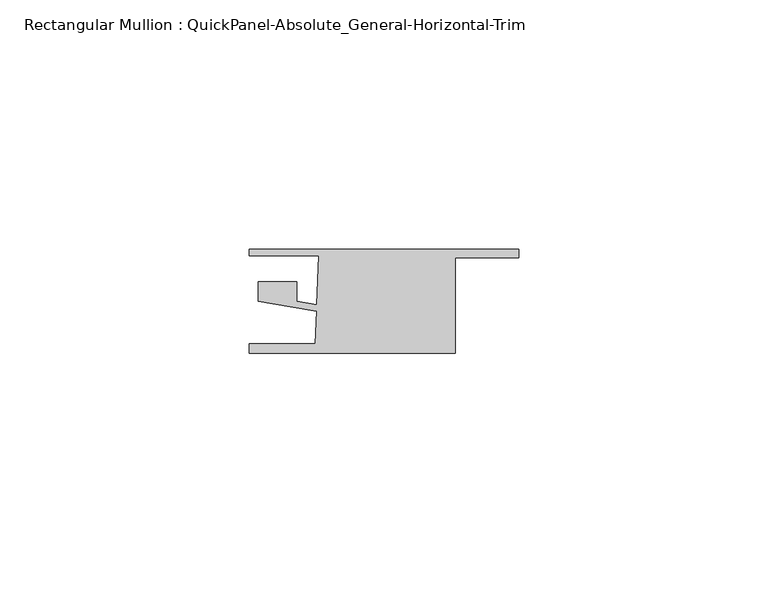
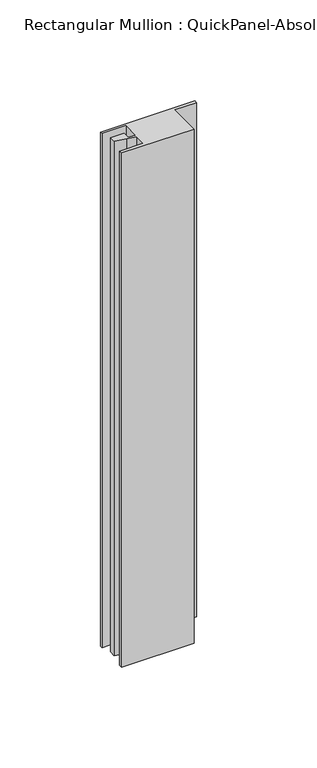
"""IFC4 building model written with IfcOpenShell, lengths in millimetres: member geometry, Rectangular Mullion : QuickPanel-Absolute_General-Horizontal-Trim."""

from ifc_helpers import new_model, si_unit, frame, origin, place, context, project, spatial, polyline, outline, extrude, source, transform, mapped, element, save


def rectangular_mullion_quickpanel_absolute_general_horizontal_21c7a952(model_context):
    return source(origin(), model_context, "Body", "SweptSolid", [
        extrude(outline(polyline([(-53.975, -8.6293878), (-53.975, -6.6935423), (-40.7340873, -6.6935423), (-40.5073021, -0.1992641), (-45.757583, 0.7008023), (-52.1929157, 1.8040245), (-52.1929157, 5.6493034), (-44.4481426, 5.6493034), (-44.4481426, 1.7648465), (-40.4625736, 1.0815922), (-40.1186466, 10.9303752), (-53.975, 10.9303752), (-53.975, 12.1803727), (0.0, 12.1803727), (0.0, 10.4985348), (-12.6805114, 10.4985348), (-12.6805114, -8.6293878), (-53.975, -8.6293878)])), frame((0.0, 0.0, -311.0914708), z_axis=(0.0, 0.0, 1.0), x_axis=(1.0, 0.0, 0.0)), (0.0, 0.0, 1.0), 311.0914708),
    ])


if __name__ == "__main__":
    model = new_model("IFC4")
    model_context = context("Model", 3, world=origin())
    ifc_project = project(units=[si_unit("LENGTHUNIT", "METRE", prefix="MILLI")], contexts=[model_context])
    site = spatial("IfcSite", under=ifc_project)
    building = spatial("IfcBuilding", under=site)
    placement = place(None, origin())
    rectangular_mullion_quickpanel_absolute_general_horizontal_shape = rectangular_mullion_quickpanel_absolute_general_horizontal_21c7a952(model_context)
    element("IfcMember", 1, ObjectType="Rectangular Mullion : QuickPanel-Absolute_General-Horizontal-Trim", at=placement, inside=building, context=model_context, shape_type="MappedRepresentation", body=[
        mapped(rectangular_mullion_quickpanel_absolute_general_horizontal_shape, transform((0.0, 0.0, 0.0), x_axis=(1.0, 0.0, 0.0), y_axis=(0.0, 1.0, 0.0), z_axis=(0.0, 0.0, 1.0))),
    ])
    save(model, "model.ifc")
